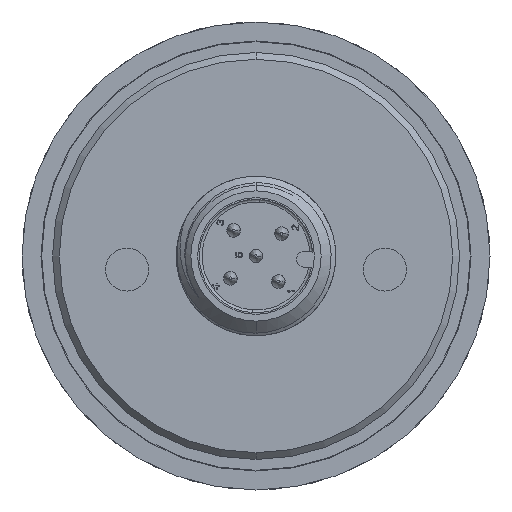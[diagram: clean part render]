
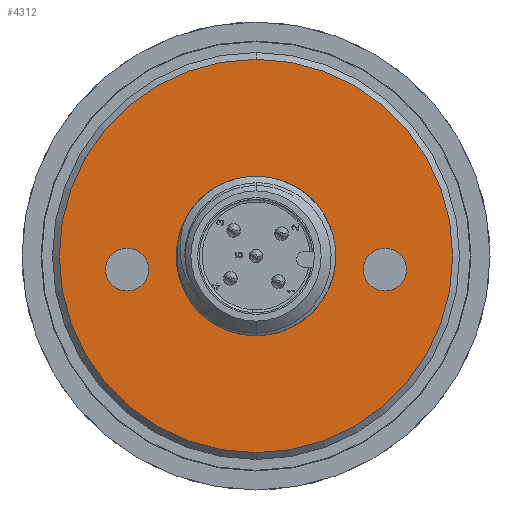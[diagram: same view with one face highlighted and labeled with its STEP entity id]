
A CAD part, front view. The second image highlights one B-rep face of the part: STEP entity #4312.
In plain terms, the highlighted planar face has unit normal (0, -1, 0).
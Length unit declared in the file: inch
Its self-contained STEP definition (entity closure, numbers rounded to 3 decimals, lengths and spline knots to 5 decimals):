
#340 = CARTESIAN_POINT ( 'NONE',  ( 0., 0.59055, -0.21063 ) ) ;
#1501 = DIRECTION ( 'NONE',  ( 0., 0., -1. ) ) ;
#1523 = ORIENTED_EDGE ( 'NONE', *, *, #45883, .F. ) ;
#3550 = CIRCLE ( 'NONE', #63572, 0.0625 ) ;
#4312 = ADVANCED_FACE ( 'NONE', ( #63417, #34147, #4784, #61698 ), #36945, .T. ) ;
#4663 = EDGE_CURVE ( 'NONE', #63654, #26163, #22863, .T. ) ;
#4784 = FACE_BOUND ( 'NONE', #31541, .T. ) ;
#6429 = CARTESIAN_POINT ( 'NONE',  ( 0.37402, 0.59055, -0.10187 ) ) ;
#6655 = CARTESIAN_POINT ( 'NONE',  ( 0., 0.59055, 0. ) ) ;
#7455 = ORIENTED_EDGE ( 'NONE', *, *, #50771, .T. ) ;
#9447 = CARTESIAN_POINT ( 'NONE',  ( 0.37402, 0.59055, -0.03937 ) ) ;
#11097 = EDGE_LOOP ( 'NONE', ( #52285, #60441 ) ) ;
#11842 = ORIENTED_EDGE ( 'NONE', *, *, #52971, .T. ) ;
#12224 = DIRECTION ( 'NONE',  ( 0., 0., -1. ) ) ;
#12750 = VERTEX_POINT ( 'NONE', #40600 ) ;
#13696 = CIRCLE ( 'NONE', #26860, 0.21063 ) ;
#14298 = EDGE_CURVE ( 'NONE', #70135, #12750, #65000, .T. ) ;
#14778 = ORIENTED_EDGE ( 'NONE', *, *, #50784, .T. ) ;
#15003 = DIRECTION ( 'NONE',  ( 0., 0., -1. ) ) ;
#15278 = AXIS2_PLACEMENT_3D ( 'NONE', #60493, #27484, #65991 ) ;
#16138 = VERTEX_POINT ( 'NONE', #70537 ) ;
#16410 = CARTESIAN_POINT ( 'NONE',  ( 0.37402, 0.59055, 0.02313 ) ) ;
#19240 = CARTESIAN_POINT ( 'NONE',  ( 0., 0.59055, 0.57087 ) ) ;
#20557 = DIRECTION ( 'NONE',  ( 0., -1., 0. ) ) ;
#22137 = CARTESIAN_POINT ( 'NONE',  ( -0.37402, 0.59055, -0.03937 ) ) ;
#22863 = CIRCLE ( 'NONE', #36798, 0.21063 ) ;
#23997 = CARTESIAN_POINT ( 'NONE',  ( 0., 0.59055, 0. ) ) ;
#24389 = CIRCLE ( 'NONE', #48332, 0.57087 ) ;
#25872 = EDGE_LOOP ( 'NONE', ( #11842, #57962 ) ) ;
#26163 = VERTEX_POINT ( 'NONE', #60843 ) ;
#26860 = AXIS2_PLACEMENT_3D ( 'NONE', #6655, #45226, #12224 ) ;
#27484 = DIRECTION ( 'NONE',  ( 0., 1., 0. ) ) ;
#27649 = DIRECTION ( 'NONE',  ( 0., 0., -1. ) ) ;
#27734 = EDGE_LOOP ( 'NONE', ( #48013, #1523 ) ) ;
#27940 = CARTESIAN_POINT ( 'NONE',  ( 0., 0.59055, 0. ) ) ;
#29530 = DIRECTION ( 'NONE',  ( 0., 0., -1. ) ) ;
#31541 = EDGE_LOOP ( 'NONE', ( #7455, #14778 ) ) ;
#31614 = CARTESIAN_POINT ( 'NONE',  ( 0.37402, 0.59055, -0.03937 ) ) ;
#33507 = DIRECTION ( 'NONE',  ( 0., 0., -1. ) ) ;
#34147 = FACE_BOUND ( 'NONE', #25872, .T. ) ;
#34542 = DIRECTION ( 'NONE',  ( 0., -1., 0. ) ) ;
#36257 = VERTEX_POINT ( 'NONE', #19240 ) ;
#36798 = AXIS2_PLACEMENT_3D ( 'NONE', #23997, #62528, #29530 ) ;
#36945 = PLANE ( 'NONE',  #38177 ) ;
#37177 = DIRECTION ( 'NONE',  ( 0., 0., -1. ) ) ;
#37456 = VERTEX_POINT ( 'NONE', #16410 ) ;
#38177 = AXIS2_PLACEMENT_3D ( 'NONE', #53521, #20557, #59062 ) ;
#40600 = CARTESIAN_POINT ( 'NONE',  ( -0.37402, 0.59055, 0.02313 ) ) ;
#41687 = EDGE_CURVE ( 'NONE', #16138, #36257, #43862, .T. ) ;
#42245 = CARTESIAN_POINT ( 'NONE',  ( -0.37402, 0.59055, -0.10187 ) ) ;
#43862 = CIRCLE ( 'NONE', #51567, 0.57087 ) ;
#44057 = VERTEX_POINT ( 'NONE', #6429 ) ;
#45226 = DIRECTION ( 'NONE',  ( 0., -1., 0. ) ) ;
#45883 = EDGE_CURVE ( 'NONE', #26163, #63654, #13696, .T. ) ;
#48012 = DIRECTION ( 'NONE',  ( 0., 1., 0. ) ) ;
#48013 = ORIENTED_EDGE ( 'NONE', *, *, #4663, .F. ) ;
#48332 = AXIS2_PLACEMENT_3D ( 'NONE', #27940, #66450, #33507 ) ;
#49800 = CIRCLE ( 'NONE', #15278, 0.0625 ) ;
#50771 = EDGE_CURVE ( 'NONE', #37456, #44057, #3550, .T. ) ;
#50784 = EDGE_CURVE ( 'NONE', #44057, #37456, #60483, .T. ) ;
#51567 = AXIS2_PLACEMENT_3D ( 'NONE', #67486, #34542, #1501 ) ;
#52285 = ORIENTED_EDGE ( 'NONE', *, *, #62585, .T. ) ;
#52971 = EDGE_CURVE ( 'NONE', #12750, #70135, #49800, .T. ) ;
#53521 = CARTESIAN_POINT ( 'NONE',  ( -0.20472, 0.59055, 0. ) ) ;
#56970 = AXIS2_PLACEMENT_3D ( 'NONE', #22137, #60659, #27649 ) ;
#57962 = ORIENTED_EDGE ( 'NONE', *, *, #14298, .T. ) ;
#59062 = DIRECTION ( 'NONE',  ( 0., 0., -1. ) ) ;
#60441 = ORIENTED_EDGE ( 'NONE', *, *, #41687, .T. ) ;
#60483 = CIRCLE ( 'NONE', #70941, 0.0625 ) ;
#60493 = CARTESIAN_POINT ( 'NONE',  ( -0.37402, 0.59055, -0.03937 ) ) ;
#60659 = DIRECTION ( 'NONE',  ( 0., 1., 0. ) ) ;
#60843 = CARTESIAN_POINT ( 'NONE',  ( 0., 0.59055, 0.21063 ) ) ;
#61698 = FACE_BOUND ( 'NONE', #27734, .T. ) ;
#62528 = DIRECTION ( 'NONE',  ( 0., -1., 0. ) ) ;
#62585 = EDGE_CURVE ( 'NONE', #36257, #16138, #24389, .T. ) ;
#63417 = FACE_OUTER_BOUND ( 'NONE', #11097, .T. ) ;
#63572 = AXIS2_PLACEMENT_3D ( 'NONE', #9447, #48012, #15003 ) ;
#63654 = VERTEX_POINT ( 'NONE', #340 ) ;
#65000 = CIRCLE ( 'NONE', #56970, 0.0625 ) ;
#65991 = DIRECTION ( 'NONE',  ( 0., 0., -1. ) ) ;
#66450 = DIRECTION ( 'NONE',  ( 0., -1., 0. ) ) ;
#67486 = CARTESIAN_POINT ( 'NONE',  ( 0., 0.59055, 0. ) ) ;
#70135 = VERTEX_POINT ( 'NONE', #42245 ) ;
#70140 = DIRECTION ( 'NONE',  ( 0., 1., 0. ) ) ;
#70537 = CARTESIAN_POINT ( 'NONE',  ( 0., 0.59055, -0.57087 ) ) ;
#70941 = AXIS2_PLACEMENT_3D ( 'NONE', #31614, #70140, #37177 ) ;
